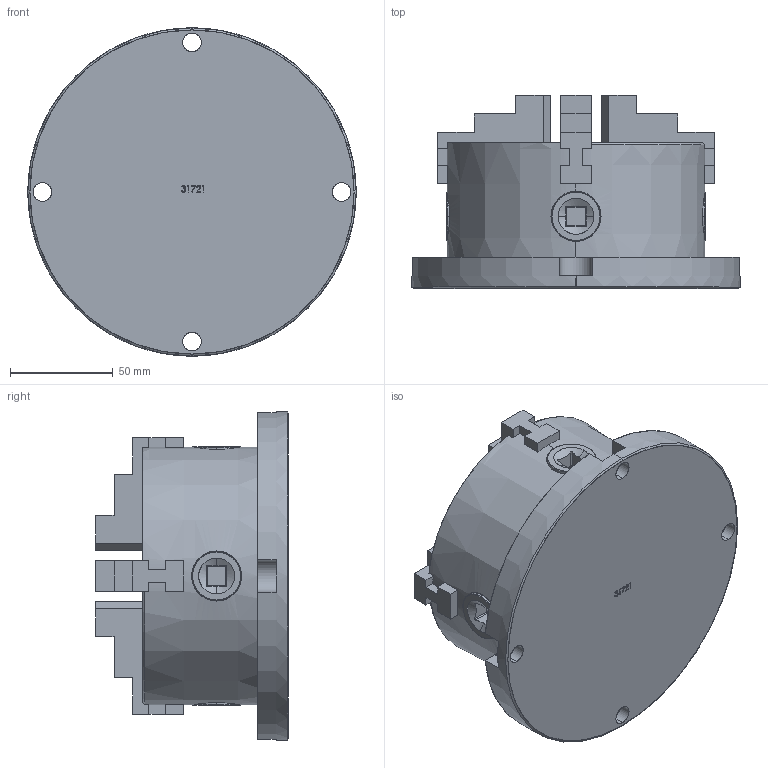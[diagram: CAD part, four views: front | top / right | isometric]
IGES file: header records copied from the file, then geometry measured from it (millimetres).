
Start section: SolidWorks IGES file using analytic representation for surfaces
Global section: file name: U:\SOLIDWORKS HOLDING FILE\WORKHOLDING\PARTS FOR WEBSITE\31721 4-JAW 6-INCH CHUCK\31721 4-JAW 6-INCH CHUCK.IGS; native system: SolidWorks 2012; preprocessor: SolidWorks 2012; author: RTooley; date: 131105.110715; units: millimetre
Bounding box: 160 x 94 x 160 mm (x, y, z)
Surface area: 118368.9 mm2 (no closed solid volume)
Topology: 0 solids, 0 shells, 343 faces, 3761 edges, 3745 vertices
Faces by surface type: bspline 231, revolution 112
